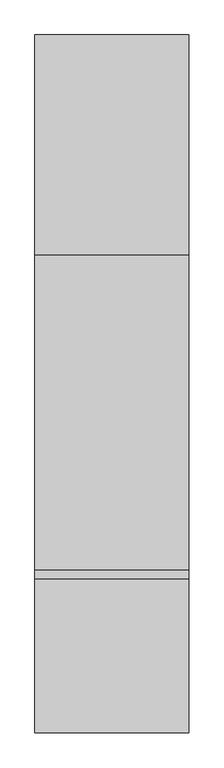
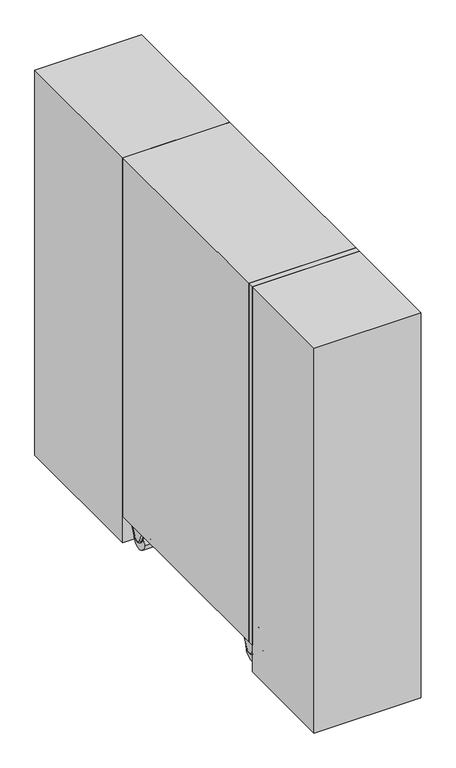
"""IFC4 building model written with IfcOpenShell, lengths in millimetres: proxy geometry, Трехфазный ИБП_ЛЕГИОН_СайберЭлектро : ЛЕГИОН-3Ф-20К-Ш."""

from ifc_helpers import new_model, si_unit, point, frame, origin, origin_with_axes, place, context, project, spatial, polyline, circle_curve, ellipse_curve, trimmed, outline, extrude, source, transform, mapped, element, save
from ifc_brep_helpers import plane_surface, cylinder_surface, revolved_surface, advanced_brep


def electrical_equipment_600f0f6b(model_context):
    return source(origin(), model_context, "Body", "SolidModel", [
        advanced_brep(
        [(157.5584286, -22.026834, 73.0926887), (157.5584286, -31.2318826, 87.0), (157.5584286, -68.7681174, 87.0), (157.5584286, -77.973166, 73.0926887), (157.5584286, -63.8075728, 39.7206426), (157.5584286, -36.1924272, 39.7206426), (112.4415714, -31.2318826, 87.0), (112.4415714, -22.026834, 73.0926887), (112.4415714, -36.1924272, 39.7206426), (112.4415714, -63.8075728, 39.7206426), (112.4415714, -77.973166, 73.0926887), (112.4415714, -68.7681174, 87.0), (152.5584286, -31.2318826, 92.0), (117.4415641, -31.2318826, 92.0), (117.4415714, -68.7681174, 92.0), (152.5584286, -68.7681174, 92.0), (117.4415714, -82.5756902, 71.1390331), (152.5584286, -82.5756902, 71.1390331), (150.0, -73.1912444, 49.0306642), (150.0, -68.4100971, 37.7669869), (152.5584286, -68.4100971, 37.7669869), (117.4415714, -68.4100971, 37.7669869), (120.0, -68.4100971, 37.7669869), (120.0, -73.1912444, 49.0306642), (150.0, -31.5899029, 37.7669869), (152.5584286, -31.5899029, 37.7669869), (120.0, -31.5899029, 37.7669869), (117.4415714, -31.5899029, 37.7669869), (150.0, -26.8087556, 49.0306642), (120.0, -26.8087556, 49.0306642), (117.4415714, -17.4243098, 71.1390331), (152.5584286, -17.4243098, 71.1390331), (150.0, -80.0, 30.0), (150.0, -20.0, 30.0), (120.0, -20.0, 30.0), (120.0, -80.0, 30.0)],
        [
            (0, 1, circle_curve(frame((157.5584286, -31.2318826, 77.0), z_axis=(1.0, 0.0, 0.0), x_axis=(0.0, 0.0, 1.0)), 10.0)),
            (1, 2),
            (2, 3, circle_curve(frame((157.5584286, -68.7681174, 77.0), z_axis=(1.0, 0.0, 0.0), x_axis=(0.0, -0.9205048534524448, -0.3907311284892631)), 10.0)),
            (3, 4),
            (4, 5, circle_curve(frame((157.5584286, -50.0, 45.5816095), z_axis=(1.0, 0.0, 0.0), x_axis=(0.0, 0.9205048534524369, -0.3907311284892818)), 15.0)),
            (5, 0),
            (6, 7, circle_curve(frame((112.4415714, -31.2318826, 77.0), z_axis=(-1.0, 0.0, 0.0), x_axis=(0.0, 0.0, 1.0)), 10.0)),
            (7, 8),
            (8, 9, circle_curve(frame((112.4415714, -50.0, 45.5816095), z_axis=(-1.0, 0.0, 0.0), x_axis=(0.0, 0.9205048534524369, -0.3907311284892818)), 15.0)),
            (9, 10),
            (10, 11, circle_curve(frame((112.4415714, -68.7681174, 77.0), z_axis=(-1.0, 0.0, 0.0), x_axis=(0.0, -0.9205048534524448, -0.3907311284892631)), 10.0)),
            (11, 6),
            (12, 13),
            (13, 14),
            (14, 15),
            (15, 12),
            (14, 16, circle_curve(frame((117.4415714, -68.7681174, 77.0), z_axis=(1.0, 0.0, 0.0), x_axis=(0.0, 1.0, 0.0)), 15.0)),
            (16, 17),
            (17, 15, circle_curve(frame((152.5584286, -68.7681174, 77.0), z_axis=(-1.0, 0.0, 0.0), x_axis=(0.0, 1.0, 0.0)), 15.0)),
            (18, 19),
            (19, 20),
            (20, 17),
            (16, 21),
            (21, 22),
            (22, 23),
            (23, 18),
            (19, 24, circle_curve(frame((150.0, -50.0, 45.5816095), z_axis=(1.0, 0.0, 0.0), x_axis=(0.0, 1.0, 0.0)), 20.0)),
            (24, 25),
            (25, 20, circle_curve(frame((152.5584286, -50.0, 45.5816095), z_axis=(-1.0, 0.0, 0.0), x_axis=(0.0, 1.0, 0.0)), 20.0)),
            (26, 22, circle_curve(frame((120.0, -50.0, 45.5816095), z_axis=(-1.0, 0.0, 0.0), x_axis=(0.0, 1.0, 0.0)), 20.0)),
            (21, 27, circle_curve(frame((117.4415714, -50.0, 45.5816095), z_axis=(1.0, 0.0, 0.0), x_axis=(0.0, 1.0, 0.0)), 20.0)),
            (27, 26),
            (24, 28),
            (28, 29),
            (29, 26),
            (27, 30),
            (30, 31),
            (31, 25),
            (12, 31, circle_curve(frame((152.5584286, -31.2318826, 77.0), z_axis=(-1.0, 0.0, 0.0), x_axis=(0.0, 1.0, 0.0)), 15.0)),
            (30, 13, circle_curve(frame((117.4415714, -31.2318826, 77.0), z_axis=(1.0, 0.0, 0.0), x_axis=(0.0, 1.0, 0.0)), 15.0)),
            (32, 33, circle_curve(frame((150.0, -50.0, 30.0), z_axis=(1.0, 0.0, 0.0), x_axis=(0.0, -1.0, 0.0)), 30.0)),
            (33, 28, circle_curve(frame((150.0, -50.0, 30.0), z_axis=(1.0, 0.0, 0.0), x_axis=(0.0, -1.0, 0.0)), 30.0)),
            (18, 32, circle_curve(frame((150.0, -50.0, 30.0), z_axis=(1.0, 0.0, 0.0), x_axis=(0.0, -1.0, 0.0)), 30.0)),
            (34, 35, circle_curve(frame((120.0, -50.0, 30.0), z_axis=(-1.0, 0.0, 0.0), x_axis=(0.0, -1.0, 0.0)), 30.0)),
            (35, 23, circle_curve(frame((120.0, -50.0, 30.0), z_axis=(-1.0, 0.0, 0.0), x_axis=(0.0, -1.0, 0.0)), 30.0)),
            (29, 34, circle_curve(frame((120.0, -50.0, 30.0), z_axis=(-1.0, 0.0, 0.0), x_axis=(0.0, -1.0, 0.0)), 30.0)),
            (33, 34),
            (35, 32),
            (30, 7, circle_curve(frame((117.4415714, -22.026834, 73.0926887), z_axis=(0.0, 0.3907311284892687, 0.9205048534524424), x_axis=(-1.0, 0.0, 0.0)), 5.0)),
            (6, 13, circle_curve(frame((117.4415714, -31.2318826, 87.0), z_axis=(0.0, 1.0, 0.0), x_axis=(-1.0, 0.0, 0.0)), 5.0)),
            (0, 31, circle_curve(frame((152.5584286, -22.026834, 73.0926887), z_axis=(0.0, 0.3907311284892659, 0.9205048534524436), x_axis=(-1.0, 0.0, 0.0)), 5.0)),
            (12, 1, circle_curve(frame((152.5584286, -31.2318826, 87.0), z_axis=(0.0, 1.0, 0.0), x_axis=(-1.0, 0.0, 0.0)), 5.0)),
            (27, 8, circle_curve(frame((117.4415714, -36.1924272, 39.7206426), z_axis=(0.0, 0.3907311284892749, 0.9205048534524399), x_axis=(-1.0, 0.0, 0.0)), 5.0)),
            (5, 25, circle_curve(frame((152.5584286, -36.1924272, 39.7206426), z_axis=(0.0, 0.3907311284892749, 0.9205048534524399), x_axis=(-1.0, 0.0, 0.0)), 5.0)),
            (21, 9, circle_curve(frame((117.4415714, -63.8075728, 39.7206426), z_axis=(0.0, 0.39073112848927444, -0.9205048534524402), x_axis=(-1.0, 0.0, 0.0)), 5.0)),
            (4, 20, circle_curve(frame((152.5584286, -63.8075728, 39.7206426), z_axis=(0.0, 0.39073112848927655, -0.9205048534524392), x_axis=(-1.0, 0.0, 0.0)), 5.0)),
            (16, 10, circle_curve(frame((117.4415714, -77.973166, 73.0926887), z_axis=(0.0, 0.39073112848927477, -0.92050485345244), x_axis=(-1.0, 0.0, 0.0)), 5.0)),
            (3, 17, circle_curve(frame((152.5584286, -77.973166, 73.0926887), z_axis=(0.0, 0.39073112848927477, -0.92050485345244), x_axis=(-1.0, 0.0, 0.0)), 5.0)),
            (14, 11, circle_curve(frame((117.4415714, -68.7681174, 87.0), z_axis=(0.0, -1.0, 0.0), x_axis=(-1.0, 0.0, 0.0)), 5.0)),
            (2, 15, circle_curve(frame((152.5584286, -68.7681174, 87.0), z_axis=(0.0, -1.0, 0.0), x_axis=(-1.0, 0.0, 0.0)), 5.0)),
        ],
        [
            plane_surface(frame((157.5584286, -50.0, 92.0), z_axis=(1.0, 0.0, 0.0), x_axis=(0.0, -1.0, 0.0))),
            plane_surface(frame((112.4415714, -50.0, 92.0), z_axis=(-1.0, 0.0, 0.0), x_axis=(0.0, 1.0, 0.0))),
            plane_surface(frame((157.5584286, -31.2318826, 92.0), z_axis=(0.0, 0.0, 1.0), x_axis=(-1.0, 0.0, 0.0))),
            cylinder_surface(frame((112.4415714, -68.7681174, 77.0), z_axis=(1.0, 0.0, 0.0), x_axis=(0.0, 1.0, 0.0)), 15.0),
            plane_surface(frame((157.5584286, -82.5756902, 71.1390331), z_axis=(0.0, -0.9205048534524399, -0.39073112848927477), x_axis=(-1.0, 0.0, 0.0))),
            cylinder_surface(frame((112.4415714, -50.0, 45.5816095), z_axis=(1.0, 0.0, 0.0), x_axis=(0.0, 1.0, 0.0)), 20.0),
            plane_surface(frame((157.5584286, -31.5899029, 37.7669869), z_axis=(0.0, 0.9205048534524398, -0.3907311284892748), x_axis=(-1.0, 0.0, 0.0))),
            cylinder_surface(frame((112.4415714, -31.2318826, 77.0), z_axis=(1.0, 0.0, 0.0), x_axis=(0.0, 1.0, 0.0)), 15.0),
            plane_surface(frame((150.0, -80.0, 30.0), z_axis=(1.0, 0.0, 0.0), x_axis=(0.0, 0.0, -1.0))),
            plane_surface(frame((120.0, -80.0, 30.0), z_axis=(-1.0, 0.0, 0.0), x_axis=(0.0, 0.0, 1.0))),
            cylinder_surface(frame((120.0, -50.0, 30.0), z_axis=(1.0, 0.0, 0.0), x_axis=(0.0, -1.0, 0.0)), 30.0),
            revolved_surface(trimmed(ellipse_curve(frame((117.4415714, -31.2318826, 87.0), z_axis=(0.0, -1.0, 0.0), x_axis=(-1.0, 0.0, 0.0)), 5.0, 5.0), [point((117.4415714, -31.2318826, 92.0))], [point((112.4415714, -31.2318826, 87.0))], True, "CARTESIAN"), (112.4415714, -31.2318826, 77.0), (-1.0, 0.0, 0.0)),
            revolved_surface(trimmed(ellipse_curve(frame((152.5584286, -31.2318826, 87.0), z_axis=(0.0, -1.0, 0.0), x_axis=(-1.0, 0.0, 0.0)), 5.0, 5.0), [point((157.5584286, -31.2318826, 87.0))], [point((152.5584286, -31.2318826, 92.0))], True, "CARTESIAN"), (112.4415714, -31.2318826, 77.0), (-1.0, 0.0, 0.0)),
            cylinder_surface(frame((117.4415714, -22.026834, 73.0926887), z_axis=(0.0, -0.3907311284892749, -0.9205048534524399), x_axis=(-1.0, 0.0, 0.0)), 5.0),
            cylinder_surface(frame((152.5584286, -22.026834, 73.0926887), z_axis=(0.0, -0.3907311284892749, -0.9205048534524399), x_axis=(-1.0, 0.0, 0.0)), 5.0),
            revolved_surface(trimmed(ellipse_curve(frame((117.4415714, -36.1924272, 39.7206426), z_axis=(0.0, 0.39073112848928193, 0.9205048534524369), x_axis=(-1.0, 0.0, 0.0)), 5.0, 5.0), [point((117.4415714, -31.5899029, 37.7669869))], [point((112.4415714, -36.1924272, 39.7206426))], True, "CARTESIAN"), (112.4415714, -50.0, 45.5816095), (-1.0, 0.0, 0.0)),
            revolved_surface(trimmed(ellipse_curve(frame((152.5584286, -36.1924272, 39.7206426), z_axis=(0.0, 0.39073112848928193, 0.9205048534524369), x_axis=(-1.0, 0.0, 0.0)), 5.0, 5.0), [point((157.5584286, -36.1924272, 39.7206426))], [point((152.5584286, -31.5899029, 37.7669869))], True, "CARTESIAN"), (112.4415714, -50.0, 45.5816095), (-1.0, 0.0, 0.0)),
            cylinder_surface(frame((117.4415714, -63.8075728, 39.7206426), z_axis=(0.0, -0.39073112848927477, 0.92050485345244), x_axis=(-1.0, 0.0, 0.0)), 5.0),
            cylinder_surface(frame((152.5584286, -63.8075728, 39.7206426), z_axis=(0.0, -0.39073112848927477, 0.92050485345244), x_axis=(-1.0, 0.0, 0.0)), 5.0),
            revolved_surface(trimmed(ellipse_curve(frame((117.4415714, -77.973166, 73.0926887), z_axis=(0.0, 0.39073112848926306, -0.9205048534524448), x_axis=(-1.0, 0.0, 0.0)), 5.0, 5.0), [point((117.4415714, -82.5756902, 71.1390331))], [point((112.4415714, -77.973166, 73.0926887))], True, "CARTESIAN"), (112.4415714, -68.7681174, 77.0), (-1.0, 0.0, 0.0)),
            revolved_surface(trimmed(ellipse_curve(frame((152.5584286, -77.973166, 73.0926887), z_axis=(0.0, 0.39073112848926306, -0.9205048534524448), x_axis=(-1.0, 0.0, 0.0)), 5.0, 5.0), [point((157.5584286, -77.973166, 73.0926887))], [point((152.5584286, -82.5756902, 71.1390331))], True, "CARTESIAN"), (112.4415714, -68.7681174, 77.0), (-1.0, 0.0, 0.0)),
            cylinder_surface(frame((117.4415714, -68.7681174, 87.0), z_axis=(0.0, 1.0, 0.0), x_axis=(-1.0, 0.0, 0.0)), 5.0),
            cylinder_surface(frame((152.5584286, -68.7681174, 87.0), z_axis=(0.0, 1.0, 0.0), x_axis=(-1.0, 0.0, 0.0)), 5.0),
        ],
        [
            (0, [[1, 2, 3, 4, 5, 6]]),
            (1, [[7, 8, 9, 10, 11, 12]]),
            (2, [[13, 14, 15, 16]]),
            (3, [[-15, 17, 18, 19]]),
            (4, [[20, 21, 22, -18, 23, 24, 25, 26]]),
            (5, [[27, 28, 29, -21]]),
            (5, [[30, -24, 31, 32]]),
            (6, [[33, 34, 35, -32, 36, 37, 38, -28]]),
            (7, [[-13, 39, -37, 40]]),
            (8, [[41, 42, -33, -27, -20, 43]]),
            (9, [[44, 45, -25, -30, -35, 46]]),
            (10, [[47, -46, -34, -42]]),
            (10, [[48, -43, -26, -45]]),
            (10, [[-41, -48, -44, -47]]),
            (11, [[49, -7, 50, -40]]),
            (12, [[51, -39, 52, -1]]),
            (13, [[-49, -36, 53, -8]]),
            (14, [[-51, -6, 54, -38]]),
            (15, [[-53, -31, 55, -9]]),
            (16, [[-54, -5, 56, -29]]),
            (17, [[-55, -23, 57, -10]]),
            (18, [[-56, -4, 58, -22]]),
            (19, [[-57, -17, 59, -11]]),
            (20, [[-58, -3, 60, -19]]),
            (21, [[-50, -12, -59, -14]]),
            (22, [[-52, -16, -60, -2]]),
        ],
    ),
        advanced_brep(
        [(-112.4415714, -22.026834, 73.0926887), (-112.4415714, -31.2318826, 87.0), (-112.4415714, -68.7681174, 87.0), (-112.4415714, -77.973166, 73.0926887), (-112.4415714, -63.8075728, 39.7206426), (-112.4415714, -36.1924272, 39.7206426), (-157.5584286, -31.2318826, 87.0), (-157.5584286, -22.026834, 73.0926887), (-157.5584286, -36.1924272, 39.7206426), (-157.5584286, -63.8075728, 39.7206426), (-157.5584286, -77.973166, 73.0926887), (-157.5584286, -68.7681174, 87.0), (-117.4415714, -31.2318826, 92.0), (-152.5584359, -31.2318826, 92.0), (-152.5584286, -68.7681174, 92.0), (-117.4415714, -68.7681174, 92.0), (-152.5584286, -82.5756902, 71.1390331), (-117.4415714, -82.5756902, 71.1390331), (-120.0, -73.1912444, 49.0306642), (-120.0, -68.4100971, 37.7669869), (-117.4415714, -68.4100971, 37.7669869), (-152.5584286, -68.4100971, 37.7669869), (-150.0, -68.4100971, 37.7669869), (-150.0, -73.1912444, 49.0306642), (-120.0, -31.5899029, 37.7669869), (-117.4415714, -31.5899029, 37.7669869), (-150.0, -31.5899029, 37.7669869), (-152.5584286, -31.5899029, 37.7669869), (-120.0, -26.8087556, 49.0306642), (-150.0, -26.8087556, 49.0306642), (-152.5584286, -17.4243098, 71.1390331), (-117.4415714, -17.4243098, 71.1390331), (-120.0, -80.0, 30.0), (-120.0, -20.0, 30.0), (-150.0, -20.0, 30.0), (-150.0, -80.0, 30.0)],
        [
            (0, 1, circle_curve(frame((-112.4415714, -31.2318826, 77.0), z_axis=(1.0, 0.0, 0.0), x_axis=(0.0, 0.0, 1.0)), 10.0)),
            (1, 2),
            (2, 3, circle_curve(frame((-112.4415714, -68.7681174, 77.0), z_axis=(1.0, 0.0, 0.0), x_axis=(0.0, -0.9205048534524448, -0.3907311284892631)), 10.0)),
            (3, 4),
            (4, 5, circle_curve(frame((-112.4415714, -50.0, 45.5816095), z_axis=(1.0, 0.0, 0.0), x_axis=(0.0, 0.9205048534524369, -0.3907311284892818)), 15.0)),
            (5, 0),
            (6, 7, circle_curve(frame((-157.5584286, -31.2318826, 77.0), z_axis=(-1.0, 0.0, 0.0), x_axis=(0.0, 0.0, 1.0)), 10.0)),
            (7, 8),
            (8, 9, circle_curve(frame((-157.5584286, -50.0, 45.5816095), z_axis=(-1.0, 0.0, 0.0), x_axis=(0.0, 0.9205048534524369, -0.3907311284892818)), 15.0)),
            (9, 10),
            (10, 11, circle_curve(frame((-157.5584286, -68.7681174, 77.0), z_axis=(-1.0, 0.0, 0.0), x_axis=(0.0, -0.9205048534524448, -0.3907311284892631)), 10.0)),
            (11, 6),
            (12, 13),
            (13, 14),
            (14, 15),
            (15, 12),
            (14, 16, circle_curve(frame((-152.5584286, -68.7681174, 77.0), z_axis=(1.0, 0.0, 0.0), x_axis=(0.0, 1.0, 0.0)), 15.0)),
            (16, 17),
            (17, 15, circle_curve(frame((-117.4415714, -68.7681174, 77.0), z_axis=(-1.0, 0.0, 0.0), x_axis=(0.0, 1.0, 0.0)), 15.0)),
            (18, 19),
            (19, 20),
            (20, 17),
            (16, 21),
            (21, 22),
            (22, 23),
            (23, 18),
            (19, 24, circle_curve(frame((-120.0, -50.0, 45.5816095), z_axis=(1.0, 0.0, 0.0), x_axis=(0.0, 1.0, 0.0)), 20.0)),
            (24, 25),
            (25, 20, circle_curve(frame((-117.4415714, -50.0, 45.5816095), z_axis=(-1.0, 0.0, 0.0), x_axis=(0.0, 1.0, 0.0)), 20.0)),
            (26, 22, circle_curve(frame((-150.0, -50.0, 45.5816095), z_axis=(-1.0, 0.0, 0.0), x_axis=(0.0, 1.0, 0.0)), 20.0)),
            (21, 27, circle_curve(frame((-152.5584286, -50.0, 45.5816095), z_axis=(1.0, 0.0, 0.0), x_axis=(0.0, 1.0, 0.0)), 20.0)),
            (27, 26),
            (24, 28),
            (28, 29),
            (29, 26),
            (27, 30),
            (30, 31),
            (31, 25),
            (12, 31, circle_curve(frame((-117.4415714, -31.2318826, 77.0), z_axis=(-1.0, 0.0, 0.0), x_axis=(0.0, 1.0, 0.0)), 15.0)),
            (30, 13, circle_curve(frame((-152.5584286, -31.2318826, 77.0), z_axis=(1.0, 0.0, 0.0), x_axis=(0.0, 1.0, 0.0)), 15.0)),
            (32, 33, circle_curve(frame((-120.0, -50.0, 30.0), z_axis=(1.0, 0.0, 0.0), x_axis=(0.0, -1.0, 0.0)), 30.0)),
            (33, 28, circle_curve(frame((-120.0, -50.0, 30.0), z_axis=(1.0, 0.0, 0.0), x_axis=(0.0, -1.0, 0.0)), 30.0)),
            (18, 32, circle_curve(frame((-120.0, -50.0, 30.0), z_axis=(1.0, 0.0, 0.0), x_axis=(0.0, -1.0, 0.0)), 30.0)),
            (34, 35, circle_curve(frame((-150.0, -50.0, 30.0), z_axis=(-1.0, 0.0, 0.0), x_axis=(0.0, -1.0, 0.0)), 30.0)),
            (35, 23, circle_curve(frame((-150.0, -50.0, 30.0), z_axis=(-1.0, 0.0, 0.0), x_axis=(0.0, -1.0, 0.0)), 30.0)),
            (29, 34, circle_curve(frame((-150.0, -50.0, 30.0), z_axis=(-1.0, 0.0, 0.0), x_axis=(0.0, -1.0, 0.0)), 30.0)),
            (33, 34),
            (35, 32),
            (30, 7, circle_curve(frame((-152.5584286, -22.026834, 73.0926887), z_axis=(0.0, 0.3907311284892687, 0.9205048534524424), x_axis=(-1.0, 0.0, 0.0)), 5.0)),
            (6, 13, circle_curve(frame((-152.5584286, -31.2318826, 87.0), z_axis=(0.0, 1.0, 0.0), x_axis=(-1.0, 0.0, 0.0)), 5.0)),
            (0, 31, circle_curve(frame((-117.4415714, -22.026834, 73.0926887), z_axis=(0.0, 0.3907311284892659, 0.9205048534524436), x_axis=(-1.0, 0.0, 0.0)), 5.0)),
            (12, 1, circle_curve(frame((-117.4415714, -31.2318826, 87.0), z_axis=(0.0, 1.0, 0.0), x_axis=(-1.0, 0.0, 0.0)), 5.0)),
            (27, 8, circle_curve(frame((-152.5584286, -36.1924272, 39.7206426), z_axis=(0.0, 0.3907311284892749, 0.9205048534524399), x_axis=(-1.0, 0.0, 0.0)), 5.0)),
            (5, 25, circle_curve(frame((-117.4415714, -36.1924272, 39.7206426), z_axis=(0.0, 0.3907311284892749, 0.9205048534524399), x_axis=(-1.0, 0.0, 0.0)), 5.0)),
            (21, 9, circle_curve(frame((-152.5584286, -63.8075728, 39.7206426), z_axis=(0.0, 0.39073112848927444, -0.9205048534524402), x_axis=(-1.0, 0.0, 0.0)), 5.0)),
            (4, 20, circle_curve(frame((-117.4415714, -63.8075728, 39.7206426), z_axis=(0.0, 0.39073112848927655, -0.9205048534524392), x_axis=(-1.0, 0.0, 0.0)), 5.0)),
            (16, 10, circle_curve(frame((-152.5584286, -77.973166, 73.0926887), z_axis=(0.0, 0.39073112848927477, -0.92050485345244), x_axis=(-1.0, 0.0, 0.0)), 5.0)),
            (3, 17, circle_curve(frame((-117.4415714, -77.973166, 73.0926887), z_axis=(0.0, 0.39073112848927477, -0.92050485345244), x_axis=(-1.0, 0.0, 0.0)), 5.0)),
            (14, 11, circle_curve(frame((-152.5584286, -68.7681174, 87.0), z_axis=(0.0, -1.0, 0.0), x_axis=(-1.0, 0.0, 0.0)), 5.0)),
            (2, 15, circle_curve(frame((-117.4415714, -68.7681174, 87.0), z_axis=(0.0, -1.0, 0.0), x_axis=(-1.0, 0.0, 0.0)), 5.0)),
        ],
        [
            plane_surface(frame((-112.4415714, -50.0, 92.0), z_axis=(1.0, 0.0, 0.0), x_axis=(0.0, -1.0, 0.0))),
            plane_surface(frame((-157.5584286, -50.0, 92.0), z_axis=(-1.0, 0.0, 0.0), x_axis=(0.0, 1.0, 0.0))),
            plane_surface(frame((-112.4415714, -31.2318826, 92.0), z_axis=(0.0, 0.0, 1.0), x_axis=(-1.0, 0.0, 0.0))),
            cylinder_surface(frame((-157.5584286, -68.7681174, 77.0), z_axis=(1.0, 0.0, 0.0), x_axis=(0.0, 1.0, 0.0)), 15.0),
            plane_surface(frame((-112.4415714, -82.5756902, 71.1390331), z_axis=(0.0, -0.9205048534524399, -0.39073112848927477), x_axis=(-1.0, 0.0, 0.0))),
            cylinder_surface(frame((-157.5584286, -50.0, 45.5816095), z_axis=(1.0, 0.0, 0.0), x_axis=(0.0, 1.0, 0.0)), 20.0),
            plane_surface(frame((-112.4415714, -31.5899029, 37.7669869), z_axis=(0.0, 0.9205048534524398, -0.3907311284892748), x_axis=(-1.0, 0.0, 0.0))),
            cylinder_surface(frame((-157.5584286, -31.2318826, 77.0), z_axis=(1.0, 0.0, 0.0), x_axis=(0.0, 1.0, 0.0)), 15.0),
            plane_surface(frame((-120.0, -80.0, 30.0), z_axis=(1.0, 0.0, 0.0), x_axis=(0.0, 0.0, -1.0))),
            plane_surface(frame((-150.0, -80.0, 30.0), z_axis=(-1.0, 0.0, 0.0), x_axis=(0.0, 0.0, 1.0))),
            cylinder_surface(frame((-150.0, -50.0, 30.0), z_axis=(1.0, 0.0, 0.0), x_axis=(0.0, -1.0, 0.0)), 30.0),
            revolved_surface(trimmed(ellipse_curve(frame((-152.5584286, -31.2318826, 87.0), z_axis=(0.0, -1.0, 0.0), x_axis=(-1.0, 0.0, 0.0)), 5.0, 5.0), [point((-152.5584286, -31.2318826, 92.0))], [point((-157.5584286, -31.2318826, 87.0))], True, "CARTESIAN"), (-157.5584286, -31.2318826, 77.0), (-1.0, 0.0, 0.0)),
            revolved_surface(trimmed(ellipse_curve(frame((-117.4415714, -31.2318826, 87.0), z_axis=(0.0, -1.0, 0.0), x_axis=(-1.0, 0.0, 0.0)), 5.0, 5.0), [point((-112.4415714, -31.2318826, 87.0))], [point((-117.4415714, -31.2318826, 92.0))], True, "CARTESIAN"), (-157.5584286, -31.2318826, 77.0), (-1.0, 0.0, 0.0)),
            cylinder_surface(frame((-152.5584286, -22.026834, 73.0926887), z_axis=(0.0, -0.3907311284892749, -0.9205048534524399), x_axis=(-1.0, 0.0, 0.0)), 5.0),
            cylinder_surface(frame((-117.4415714, -22.026834, 73.0926887), z_axis=(0.0, -0.3907311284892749, -0.9205048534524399), x_axis=(-1.0, 0.0, 0.0)), 5.0),
            revolved_surface(trimmed(ellipse_curve(frame((-152.5584286, -36.1924272, 39.7206426), z_axis=(0.0, 0.39073112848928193, 0.9205048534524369), x_axis=(-1.0, 0.0, 0.0)), 5.0, 5.0), [point((-152.5584286, -31.5899029, 37.7669869))], [point((-157.5584286, -36.1924272, 39.7206426))], True, "CARTESIAN"), (-157.5584286, -50.0, 45.5816095), (-1.0, 0.0, 0.0)),
            revolved_surface(trimmed(ellipse_curve(frame((-117.4415714, -36.1924272, 39.7206426), z_axis=(0.0, 0.39073112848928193, 0.9205048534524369), x_axis=(-1.0, 0.0, 0.0)), 5.0, 5.0), [point((-112.4415714, -36.1924272, 39.7206426))], [point((-117.4415714, -31.5899029, 37.7669869))], True, "CARTESIAN"), (-157.5584286, -50.0, 45.5816095), (-1.0, 0.0, 0.0)),
            cylinder_surface(frame((-152.5584286, -63.8075728, 39.7206426), z_axis=(0.0, -0.39073112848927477, 0.92050485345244), x_axis=(-1.0, 0.0, 0.0)), 5.0),
            cylinder_surface(frame((-117.4415714, -63.8075728, 39.7206426), z_axis=(0.0, -0.39073112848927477, 0.92050485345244), x_axis=(-1.0, 0.0, 0.0)), 5.0),
            revolved_surface(trimmed(ellipse_curve(frame((-152.5584286, -77.973166, 73.0926887), z_axis=(0.0, 0.39073112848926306, -0.9205048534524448), x_axis=(-1.0, 0.0, 0.0)), 5.0, 5.0), [point((-152.5584286, -82.5756902, 71.1390331))], [point((-157.5584286, -77.973166, 73.0926887))], True, "CARTESIAN"), (-157.5584286, -68.7681174, 77.0), (-1.0, 0.0, 0.0)),
            revolved_surface(trimmed(ellipse_curve(frame((-117.4415714, -77.973166, 73.0926887), z_axis=(0.0, 0.39073112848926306, -0.9205048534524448), x_axis=(-1.0, 0.0, 0.0)), 5.0, 5.0), [point((-112.4415714, -77.973166, 73.0926887))], [point((-117.4415714, -82.5756902, 71.1390331))], True, "CARTESIAN"), (-157.5584286, -68.7681174, 77.0), (-1.0, 0.0, 0.0)),
            cylinder_surface(frame((-152.5584286, -68.7681174, 87.0), z_axis=(0.0, 1.0, 0.0), x_axis=(-1.0, 0.0, 0.0)), 5.0),
            cylinder_surface(frame((-117.4415714, -68.7681174, 87.0), z_axis=(0.0, 1.0, 0.0), x_axis=(-1.0, 0.0, 0.0)), 5.0),
        ],
        [
            (0, [[1, 2, 3, 4, 5, 6]]),
            (1, [[7, 8, 9, 10, 11, 12]]),
            (2, [[13, 14, 15, 16]]),
            (3, [[-15, 17, 18, 19]]),
            (4, [[20, 21, 22, -18, 23, 24, 25, 26]]),
            (5, [[27, 28, 29, -21]]),
            (5, [[30, -24, 31, 32]]),
            (6, [[33, 34, 35, -32, 36, 37, 38, -28]]),
            (7, [[-13, 39, -37, 40]]),
            (8, [[41, 42, -33, -27, -20, 43]]),
            (9, [[44, 45, -25, -30, -35, 46]]),
            (10, [[47, -46, -34, -42]]),
            (10, [[48, -43, -26, -45]]),
            (10, [[-41, -48, -44, -47]]),
            (11, [[49, -7, 50, -40]]),
            (12, [[51, -39, 52, -1]]),
            (13, [[-49, -36, 53, -8]]),
            (14, [[-51, -6, 54, -38]]),
            (15, [[-53, -31, 55, -9]]),
            (16, [[-54, -5, 56, -29]]),
            (17, [[-55, -23, 57, -10]]),
            (18, [[-56, -4, 58, -22]]),
            (19, [[-57, -17, 59, -11]]),
            (20, [[-58, -3, 60, -19]]),
            (21, [[-50, -12, -59, -14]]),
            (22, [[-52, -16, -60, -2]]),
        ],
    ),
        advanced_brep(
        [(157.5584286, -660.026834, 73.0926887), (157.5584286, -669.2318826, 87.0), (157.5584286, -706.7681174, 87.0), (157.5584286, -715.973166, 73.0926887), (157.5584286, -701.8075728, 39.7206426), (157.5584286, -674.1924272, 39.7206426), (112.4415714, -669.2318826, 87.0), (112.4415714, -660.026834, 73.0926887), (112.4415714, -674.1924272, 39.7206426), (112.4415714, -701.8075728, 39.7206426), (112.4415714, -715.973166, 73.0926887), (112.4415714, -706.7681174, 87.0), (152.5584286, -669.2318826, 92.0), (117.4415641, -669.2318826, 92.0), (117.4415714, -706.7681174, 92.0), (152.5584286, -706.7681174, 92.0), (117.4415714, -720.5756902, 71.1390331), (152.5584286, -720.5756902, 71.1390331), (150.0, -711.1912444, 49.0306642), (150.0, -706.4100971, 37.7669869), (152.5584286, -706.4100971, 37.7669869), (117.4415714, -706.4100971, 37.7669869), (120.0, -706.4100971, 37.7669869), (120.0, -711.1912444, 49.0306642), (150.0, -669.5899029, 37.7669869), (152.5584286, -669.5899029, 37.7669869), (120.0, -669.5899029, 37.7669869), (117.4415714, -669.5899029, 37.7669869), (150.0, -664.8087556, 49.0306642), (120.0, -664.8087556, 49.0306642), (117.4415714, -655.4243098, 71.1390331), (152.5584286, -655.4243098, 71.1390331), (150.0, -718.0, 30.0), (150.0, -658.0, 30.0), (120.0, -658.0, 30.0), (120.0, -718.0, 30.0)],
        [
            (0, 1, circle_curve(frame((157.5584286, -669.2318826, 77.0), z_axis=(1.0, 0.0, 0.0), x_axis=(0.0, 0.0, 1.0)), 10.0)),
            (1, 2),
            (2, 3, circle_curve(frame((157.5584286, -706.7681174, 77.0), z_axis=(1.0, 0.0, 0.0), x_axis=(0.0, -0.9205048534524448, -0.3907311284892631)), 10.0)),
            (3, 4),
            (4, 5, circle_curve(frame((157.5584286, -688.0, 45.5816095), z_axis=(1.0, 0.0, 0.0), x_axis=(0.0, 0.9205048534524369, -0.3907311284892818)), 15.0)),
            (5, 0),
            (6, 7, circle_curve(frame((112.4415714, -669.2318826, 77.0), z_axis=(-1.0, 0.0, 0.0), x_axis=(0.0, 0.0, 1.0)), 10.0)),
            (7, 8),
            (8, 9, circle_curve(frame((112.4415714, -688.0, 45.5816095), z_axis=(-1.0, 0.0, 0.0), x_axis=(0.0, 0.9205048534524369, -0.3907311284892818)), 15.0)),
            (9, 10),
            (10, 11, circle_curve(frame((112.4415714, -706.7681174, 77.0), z_axis=(-1.0, 0.0, 0.0), x_axis=(0.0, -0.9205048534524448, -0.3907311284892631)), 10.0)),
            (11, 6),
            (12, 13),
            (13, 14),
            (14, 15),
            (15, 12),
            (14, 16, circle_curve(frame((117.4415714, -706.7681174, 77.0), z_axis=(1.0, 0.0, 0.0), x_axis=(0.0, 1.0, 0.0)), 15.0)),
            (16, 17),
            (17, 15, circle_curve(frame((152.5584286, -706.7681174, 77.0), z_axis=(-1.0, 0.0, 0.0), x_axis=(0.0, 1.0, 0.0)), 15.0)),
            (18, 19),
            (19, 20),
            (20, 17),
            (16, 21),
            (21, 22),
            (22, 23),
            (23, 18),
            (19, 24, circle_curve(frame((150.0, -688.0, 45.5816095), z_axis=(1.0, 0.0, 0.0), x_axis=(0.0, 1.0, 0.0)), 20.0)),
            (24, 25),
            (25, 20, circle_curve(frame((152.5584286, -688.0, 45.5816095), z_axis=(-1.0, 0.0, 0.0), x_axis=(0.0, 1.0, 0.0)), 20.0)),
            (26, 22, circle_curve(frame((120.0, -688.0, 45.5816095), z_axis=(-1.0, 0.0, 0.0), x_axis=(0.0, 1.0, 0.0)), 20.0)),
            (21, 27, circle_curve(frame((117.4415714, -688.0, 45.5816095), z_axis=(1.0, 0.0, 0.0), x_axis=(0.0, 1.0, 0.0)), 20.0)),
            (27, 26),
            (24, 28),
            (28, 29),
            (29, 26),
            (27, 30),
            (30, 31),
            (31, 25),
            (12, 31, circle_curve(frame((152.5584286, -669.2318826, 77.0), z_axis=(-1.0, 0.0, 0.0), x_axis=(0.0, 1.0, 0.0)), 15.0)),
            (30, 13, circle_curve(frame((117.4415714, -669.2318826, 77.0), z_axis=(1.0, 0.0, 0.0), x_axis=(0.0, 1.0, 0.0)), 15.0)),
            (32, 33, circle_curve(frame((150.0, -688.0, 30.0), z_axis=(1.0, 0.0, 0.0), x_axis=(0.0, -1.0, 0.0)), 30.0)),
            (33, 28, circle_curve(frame((150.0, -688.0, 30.0), z_axis=(1.0, 0.0, 0.0), x_axis=(0.0, -1.0, 0.0)), 30.0)),
            (18, 32, circle_curve(frame((150.0, -688.0, 30.0), z_axis=(1.0, 0.0, 0.0), x_axis=(0.0, -1.0, 0.0)), 30.0)),
            (34, 35, circle_curve(frame((120.0, -688.0, 30.0), z_axis=(-1.0, 0.0, 0.0), x_axis=(0.0, -1.0, 0.0)), 30.0)),
            (35, 23, circle_curve(frame((120.0, -688.0, 30.0), z_axis=(-1.0, 0.0, 0.0), x_axis=(0.0, -1.0, 0.0)), 30.0)),
            (29, 34, circle_curve(frame((120.0, -688.0, 30.0), z_axis=(-1.0, 0.0, 0.0), x_axis=(0.0, -1.0, 0.0)), 30.0)),
            (33, 34),
            (35, 32),
            (30, 7, circle_curve(frame((117.4415714, -660.026834, 73.0926887), z_axis=(0.0, 0.3907311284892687, 0.9205048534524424), x_axis=(-1.0, 0.0, 0.0)), 5.0)),
            (6, 13, circle_curve(frame((117.4415714, -669.2318826, 87.0), z_axis=(0.0, 1.0, 0.0), x_axis=(-1.0, 0.0, 0.0)), 5.0)),
            (0, 31, circle_curve(frame((152.5584286, -660.026834, 73.0926887), z_axis=(0.0, 0.3907311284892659, 0.9205048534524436), x_axis=(-1.0, 0.0, 0.0)), 5.0)),
            (12, 1, circle_curve(frame((152.5584286, -669.2318826, 87.0), z_axis=(0.0, 1.0, 0.0), x_axis=(-1.0, 0.0, 0.0)), 5.0)),
            (27, 8, circle_curve(frame((117.4415714, -674.1924272, 39.7206426), z_axis=(0.0, 0.3907311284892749, 0.9205048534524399), x_axis=(-1.0, 0.0, 0.0)), 5.0)),
            (5, 25, circle_curve(frame((152.5584286, -674.1924272, 39.7206426), z_axis=(0.0, 0.3907311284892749, 0.9205048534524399), x_axis=(-1.0, 0.0, 0.0)), 5.0)),
            (21, 9, circle_curve(frame((117.4415714, -701.8075728, 39.7206426), z_axis=(0.0, 0.39073112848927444, -0.9205048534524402), x_axis=(-1.0, 0.0, 0.0)), 5.0)),
            (4, 20, circle_curve(frame((152.5584286, -701.8075728, 39.7206426), z_axis=(0.0, 0.39073112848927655, -0.9205048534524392), x_axis=(-1.0, 0.0, 0.0)), 5.0)),
            (16, 10, circle_curve(frame((117.4415714, -715.973166, 73.0926887), z_axis=(0.0, 0.39073112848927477, -0.92050485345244), x_axis=(-1.0, 0.0, 0.0)), 5.0)),
            (3, 17, circle_curve(frame((152.5584286, -715.973166, 73.0926887), z_axis=(0.0, 0.39073112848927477, -0.92050485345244), x_axis=(-1.0, 0.0, 0.0)), 5.0)),
            (14, 11, circle_curve(frame((117.4415714, -706.7681174, 87.0), z_axis=(0.0, -1.0, 0.0), x_axis=(-1.0, 0.0, 0.0)), 5.0)),
            (2, 15, circle_curve(frame((152.5584286, -706.7681174, 87.0), z_axis=(0.0, -1.0, 0.0), x_axis=(-1.0, 0.0, 0.0)), 5.0)),
        ],
        [
            plane_surface(frame((157.5584286, -688.0, 92.0), z_axis=(1.0, 0.0, 0.0), x_axis=(0.0, -1.0, 0.0))),
            plane_surface(frame((112.4415714, -688.0, 92.0), z_axis=(-1.0, 0.0, 0.0), x_axis=(0.0, 1.0, 0.0))),
            plane_surface(frame((157.5584286, -669.2318826, 92.0), z_axis=(0.0, 0.0, 1.0), x_axis=(-1.0, 0.0, 0.0))),
            cylinder_surface(frame((112.4415714, -706.7681174, 77.0), z_axis=(1.0, 0.0, 0.0), x_axis=(0.0, 1.0, 0.0)), 15.0),
            plane_surface(frame((157.5584286, -720.5756902, 71.1390331), z_axis=(0.0, -0.9205048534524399, -0.39073112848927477), x_axis=(-1.0, 0.0, 0.0))),
            cylinder_surface(frame((112.4415714, -688.0, 45.5816095), z_axis=(1.0, 0.0, 0.0), x_axis=(0.0, 1.0, 0.0)), 20.0),
            plane_surface(frame((157.5584286, -669.5899029, 37.7669869), z_axis=(0.0, 0.9205048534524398, -0.3907311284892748), x_axis=(-1.0, 0.0, 0.0))),
            cylinder_surface(frame((112.4415714, -669.2318826, 77.0), z_axis=(1.0, 0.0, 0.0), x_axis=(0.0, 1.0, 0.0)), 15.0),
            plane_surface(frame((150.0, -718.0, 30.0), z_axis=(1.0, 0.0, 0.0), x_axis=(0.0, 0.0, -1.0))),
            plane_surface(frame((120.0, -718.0, 30.0), z_axis=(-1.0, 0.0, 0.0), x_axis=(0.0, 0.0, 1.0))),
            cylinder_surface(frame((120.0, -688.0, 30.0), z_axis=(1.0, 0.0, 0.0), x_axis=(0.0, -1.0, 0.0)), 30.0),
            revolved_surface(trimmed(ellipse_curve(frame((117.4415714, -669.2318826, 87.0), z_axis=(0.0, -1.0, 0.0), x_axis=(-1.0, 0.0, 0.0)), 5.0, 5.0), [point((117.4415714, -669.2318826, 92.0))], [point((112.4415714, -669.2318826, 87.0))], True, "CARTESIAN"), (112.4415714, -669.2318826, 77.0), (-1.0, 0.0, 0.0)),
            revolved_surface(trimmed(ellipse_curve(frame((152.5584286, -669.2318826, 87.0), z_axis=(0.0, -1.0, 0.0), x_axis=(-1.0, 0.0, 0.0)), 5.0, 5.0), [point((157.5584286, -669.2318826, 87.0))], [point((152.5584286, -669.2318826, 92.0))], True, "CARTESIAN"), (112.4415714, -669.2318826, 77.0), (-1.0, 0.0, 0.0)),
            cylinder_surface(frame((117.4415714, -660.026834, 73.0926887), z_axis=(0.0, -0.3907311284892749, -0.9205048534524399), x_axis=(-1.0, 0.0, 0.0)), 5.0),
            cylinder_surface(frame((152.5584286, -660.026834, 73.0926887), z_axis=(0.0, -0.3907311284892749, -0.9205048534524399), x_axis=(-1.0, 0.0, 0.0)), 5.0),
            revolved_surface(trimmed(ellipse_curve(frame((117.4415714, -674.1924272, 39.7206426), z_axis=(0.0, 0.39073112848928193, 0.9205048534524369), x_axis=(-1.0, 0.0, 0.0)), 5.0, 5.0), [point((117.4415714, -669.5899029, 37.7669869))], [point((112.4415714, -674.1924272, 39.7206426))], True, "CARTESIAN"), (112.4415714, -688.0, 45.5816095), (-1.0, 0.0, 0.0)),
            revolved_surface(trimmed(ellipse_curve(frame((152.5584286, -674.1924272, 39.7206426), z_axis=(0.0, 0.39073112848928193, 0.9205048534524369), x_axis=(-1.0, 0.0, 0.0)), 5.0, 5.0), [point((157.5584286, -674.1924272, 39.7206426))], [point((152.5584286, -669.5899029, 37.7669869))], True, "CARTESIAN"), (112.4415714, -688.0, 45.5816095), (-1.0, 0.0, 0.0)),
            cylinder_surface(frame((117.4415714, -701.8075728, 39.7206426), z_axis=(0.0, -0.39073112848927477, 0.92050485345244), x_axis=(-1.0, 0.0, 0.0)), 5.0),
            cylinder_surface(frame((152.5584286, -701.8075728, 39.7206426), z_axis=(0.0, -0.39073112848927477, 0.92050485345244), x_axis=(-1.0, 0.0, 0.0)), 5.0),
            revolved_surface(trimmed(ellipse_curve(frame((117.4415714, -715.973166, 73.0926887), z_axis=(0.0, 0.39073112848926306, -0.9205048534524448), x_axis=(-1.0, 0.0, 0.0)), 5.0, 5.0), [point((117.4415714, -720.5756902, 71.1390331))], [point((112.4415714, -715.973166, 73.0926887))], True, "CARTESIAN"), (112.4415714, -706.7681174, 77.0), (-1.0, 0.0, 0.0)),
            revolved_surface(trimmed(ellipse_curve(frame((152.5584286, -715.973166, 73.0926887), z_axis=(0.0, 0.39073112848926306, -0.9205048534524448), x_axis=(-1.0, 0.0, 0.0)), 5.0, 5.0), [point((157.5584286, -715.973166, 73.0926887))], [point((152.5584286, -720.5756902, 71.1390331))], True, "CARTESIAN"), (112.4415714, -706.7681174, 77.0), (-1.0, 0.0, 0.0)),
            cylinder_surface(frame((117.4415714, -706.7681174, 87.0), z_axis=(0.0, 1.0, 0.0), x_axis=(-1.0, 0.0, 0.0)), 5.0),
            cylinder_surface(frame((152.5584286, -706.7681174, 87.0), z_axis=(0.0, 1.0, 0.0), x_axis=(-1.0, 0.0, 0.0)), 5.0),
        ],
        [
            (0, [[1, 2, 3, 4, 5, 6]]),
            (1, [[7, 8, 9, 10, 11, 12]]),
            (2, [[13, 14, 15, 16]]),
            (3, [[-15, 17, 18, 19]]),
            (4, [[20, 21, 22, -18, 23, 24, 25, 26]]),
            (5, [[27, 28, 29, -21]]),
            (5, [[30, -24, 31, 32]]),
            (6, [[33, 34, 35, -32, 36, 37, 38, -28]]),
            (7, [[-13, 39, -37, 40]]),
            (8, [[41, 42, -33, -27, -20, 43]]),
            (9, [[44, 45, -25, -30, -35, 46]]),
            (10, [[47, -46, -34, -42]]),
            (10, [[48, -43, -26, -45]]),
            (10, [[-41, -48, -44, -47]]),
            (11, [[49, -7, 50, -40]]),
            (12, [[51, -39, 52, -1]]),
            (13, [[-49, -36, 53, -8]]),
            (14, [[-51, -6, 54, -38]]),
            (15, [[-53, -31, 55, -9]]),
            (16, [[-54, -5, 56, -29]]),
            (17, [[-55, -23, 57, -10]]),
            (18, [[-56, -4, 58, -22]]),
            (19, [[-57, -17, 59, -11]]),
            (20, [[-58, -3, 60, -19]]),
            (21, [[-50, -12, -59, -14]]),
            (22, [[-52, -16, -60, -2]]),
        ],
    ),
        advanced_brep(
        [(-112.4415714, -660.026834, 73.0926887), (-112.4415714, -669.2318826, 87.0), (-112.4415714, -706.7681174, 87.0), (-112.4415714, -715.973166, 73.0926887), (-112.4415714, -701.8075728, 39.7206426), (-112.4415714, -674.1924272, 39.7206426), (-157.5584286, -669.2318826, 87.0), (-157.5584286, -660.026834, 73.0926887), (-157.5584286, -674.1924272, 39.7206426), (-157.5584286, -701.8075728, 39.7206426), (-157.5584286, -715.973166, 73.0926887), (-157.5584286, -706.7681174, 87.0), (-117.4415714, -669.2318826, 92.0), (-152.5584359, -669.2318826, 92.0), (-152.5584286, -706.7681174, 92.0), (-117.4415714, -706.7681174, 92.0), (-152.5584286, -720.5756902, 71.1390331), (-117.4415714, -720.5756902, 71.1390331), (-120.0, -711.1912444, 49.0306642), (-120.0, -706.4100971, 37.7669869), (-117.4415714, -706.4100971, 37.7669869), (-152.5584286, -706.4100971, 37.7669869), (-150.0, -706.4100971, 37.7669869), (-150.0, -711.1912444, 49.0306642), (-120.0, -669.5899029, 37.7669869), (-117.4415714, -669.5899029, 37.7669869), (-150.0, -669.5899029, 37.7669869), (-152.5584286, -669.5899029, 37.7669869), (-120.0, -664.8087556, 49.0306642), (-150.0, -664.8087556, 49.0306642), (-152.5584286, -655.4243098, 71.1390331), (-117.4415714, -655.4243098, 71.1390331), (-120.0, -718.0, 30.0), (-120.0, -658.0, 30.0), (-150.0, -658.0, 30.0), (-150.0, -718.0, 30.0)],
        [
            (0, 1, circle_curve(frame((-112.4415714, -669.2318826, 77.0), z_axis=(1.0, 0.0, 0.0), x_axis=(0.0, 0.0, 1.0)), 10.0)),
            (1, 2),
            (2, 3, circle_curve(frame((-112.4415714, -706.7681174, 77.0), z_axis=(1.0, 0.0, 0.0), x_axis=(0.0, -0.9205048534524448, -0.3907311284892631)), 10.0)),
            (3, 4),
            (4, 5, circle_curve(frame((-112.4415714, -688.0, 45.5816095), z_axis=(1.0, 0.0, 0.0), x_axis=(0.0, 0.9205048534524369, -0.3907311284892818)), 15.0)),
            (5, 0),
            (6, 7, circle_curve(frame((-157.5584286, -669.2318826, 77.0), z_axis=(-1.0, 0.0, 0.0), x_axis=(0.0, 0.0, 1.0)), 10.0)),
            (7, 8),
            (8, 9, circle_curve(frame((-157.5584286, -688.0, 45.5816095), z_axis=(-1.0, 0.0, 0.0), x_axis=(0.0, 0.9205048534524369, -0.3907311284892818)), 15.0)),
            (9, 10),
            (10, 11, circle_curve(frame((-157.5584286, -706.7681174, 77.0), z_axis=(-1.0, 0.0, 0.0), x_axis=(0.0, -0.9205048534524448, -0.3907311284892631)), 10.0)),
            (11, 6),
            (12, 13),
            (13, 14),
            (14, 15),
            (15, 12),
            (14, 16, circle_curve(frame((-152.5584286, -706.7681174, 77.0), z_axis=(1.0, 0.0, 0.0), x_axis=(0.0, 1.0, 0.0)), 15.0)),
            (16, 17),
            (17, 15, circle_curve(frame((-117.4415714, -706.7681174, 77.0), z_axis=(-1.0, 0.0, 0.0), x_axis=(0.0, 1.0, 0.0)), 15.0)),
            (18, 19),
            (19, 20),
            (20, 17),
            (16, 21),
            (21, 22),
            (22, 23),
            (23, 18),
            (19, 24, circle_curve(frame((-120.0, -688.0, 45.5816095), z_axis=(1.0, 0.0, 0.0), x_axis=(0.0, 1.0, 0.0)), 20.0)),
            (24, 25),
            (25, 20, circle_curve(frame((-117.4415714, -688.0, 45.5816095), z_axis=(-1.0, 0.0, 0.0), x_axis=(0.0, 1.0, 0.0)), 20.0)),
            (26, 22, circle_curve(frame((-150.0, -688.0, 45.5816095), z_axis=(-1.0, 0.0, 0.0), x_axis=(0.0, 1.0, 0.0)), 20.0)),
            (21, 27, circle_curve(frame((-152.5584286, -688.0, 45.5816095), z_axis=(1.0, 0.0, 0.0), x_axis=(0.0, 1.0, 0.0)), 20.0)),
            (27, 26),
            (24, 28),
            (28, 29),
            (29, 26),
            (27, 30),
            (30, 31),
            (31, 25),
            (12, 31, circle_curve(frame((-117.4415714, -669.2318826, 77.0), z_axis=(-1.0, 0.0, 0.0), x_axis=(0.0, 1.0, 0.0)), 15.0)),
            (30, 13, circle_curve(frame((-152.5584286, -669.2318826, 77.0), z_axis=(1.0, 0.0, 0.0), x_axis=(0.0, 1.0, 0.0)), 15.0)),
            (32, 33, circle_curve(frame((-120.0, -688.0, 30.0), z_axis=(1.0, 0.0, 0.0), x_axis=(0.0, -1.0, 0.0)), 30.0)),
            (33, 28, circle_curve(frame((-120.0, -688.0, 30.0), z_axis=(1.0, 0.0, 0.0), x_axis=(0.0, -1.0, 0.0)), 30.0)),
            (18, 32, circle_curve(frame((-120.0, -688.0, 30.0), z_axis=(1.0, 0.0, 0.0), x_axis=(0.0, -1.0, 0.0)), 30.0)),
            (34, 35, circle_curve(frame((-150.0, -688.0, 30.0), z_axis=(-1.0, 0.0, 0.0), x_axis=(0.0, -1.0, 0.0)), 30.0)),
            (35, 23, circle_curve(frame((-150.0, -688.0, 30.0), z_axis=(-1.0, 0.0, 0.0), x_axis=(0.0, -1.0, 0.0)), 30.0)),
            (29, 34, circle_curve(frame((-150.0, -688.0, 30.0), z_axis=(-1.0, 0.0, 0.0), x_axis=(0.0, -1.0, 0.0)), 30.0)),
            (33, 34),
            (35, 32),
            (30, 7, circle_curve(frame((-152.5584286, -660.026834, 73.0926887), z_axis=(0.0, 0.3907311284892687, 0.9205048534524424), x_axis=(-1.0, 0.0, 0.0)), 5.0)),
            (6, 13, circle_curve(frame((-152.5584286, -669.2318826, 87.0), z_axis=(0.0, 1.0, 0.0), x_axis=(-1.0, 0.0, 0.0)), 5.0)),
            (0, 31, circle_curve(frame((-117.4415714, -660.026834, 73.0926887), z_axis=(0.0, 0.3907311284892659, 0.9205048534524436), x_axis=(-1.0, 0.0, 0.0)), 5.0)),
            (12, 1, circle_curve(frame((-117.4415714, -669.2318826, 87.0), z_axis=(0.0, 1.0, 0.0), x_axis=(-1.0, 0.0, 0.0)), 5.0)),
            (27, 8, circle_curve(frame((-152.5584286, -674.1924272, 39.7206426), z_axis=(0.0, 0.3907311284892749, 0.9205048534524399), x_axis=(-1.0, 0.0, 0.0)), 5.0)),
            (5, 25, circle_curve(frame((-117.4415714, -674.1924272, 39.7206426), z_axis=(0.0, 0.3907311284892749, 0.9205048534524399), x_axis=(-1.0, 0.0, 0.0)), 5.0)),
            (21, 9, circle_curve(frame((-152.5584286, -701.8075728, 39.7206426), z_axis=(0.0, 0.39073112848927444, -0.9205048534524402), x_axis=(-1.0, 0.0, 0.0)), 5.0)),
            (4, 20, circle_curve(frame((-117.4415714, -701.8075728, 39.7206426), z_axis=(0.0, 0.39073112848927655, -0.9205048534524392), x_axis=(-1.0, 0.0, 0.0)), 5.0)),
            (16, 10, circle_curve(frame((-152.5584286, -715.973166, 73.0926887), z_axis=(0.0, 0.39073112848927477, -0.92050485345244), x_axis=(-1.0, 0.0, 0.0)), 5.0)),
            (3, 17, circle_curve(frame((-117.4415714, -715.973166, 73.0926887), z_axis=(0.0, 0.39073112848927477, -0.92050485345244), x_axis=(-1.0, 0.0, 0.0)), 5.0)),
            (14, 11, circle_curve(frame((-152.5584286, -706.7681174, 87.0), z_axis=(0.0, -1.0, 0.0), x_axis=(-1.0, 0.0, 0.0)), 5.0)),
            (2, 15, circle_curve(frame((-117.4415714, -706.7681174, 87.0), z_axis=(0.0, -1.0, 0.0), x_axis=(-1.0, 0.0, 0.0)), 5.0)),
        ],
        [
            plane_surface(frame((-112.4415714, -688.0, 92.0), z_axis=(1.0, 0.0, 0.0), x_axis=(0.0, -1.0, 0.0))),
            plane_surface(frame((-157.5584286, -688.0, 92.0), z_axis=(-1.0, 0.0, 0.0), x_axis=(0.0, 1.0, 0.0))),
            plane_surface(frame((-112.4415714, -669.2318826, 92.0), z_axis=(0.0, 0.0, 1.0), x_axis=(-1.0, 0.0, 0.0))),
            cylinder_surface(frame((-157.5584286, -706.7681174, 77.0), z_axis=(1.0, 0.0, 0.0), x_axis=(0.0, 1.0, 0.0)), 15.0),
            plane_surface(frame((-112.4415714, -720.5756902, 71.1390331), z_axis=(0.0, -0.9205048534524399, -0.39073112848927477), x_axis=(-1.0, 0.0, 0.0))),
            cylinder_surface(frame((-157.5584286, -688.0, 45.5816095), z_axis=(1.0, 0.0, 0.0), x_axis=(0.0, 1.0, 0.0)), 20.0),
            plane_surface(frame((-112.4415714, -669.5899029, 37.7669869), z_axis=(0.0, 0.9205048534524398, -0.3907311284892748), x_axis=(-1.0, 0.0, 0.0))),
            cylinder_surface(frame((-157.5584286, -669.2318826, 77.0), z_axis=(1.0, 0.0, 0.0), x_axis=(0.0, 1.0, 0.0)), 15.0),
            plane_surface(frame((-120.0, -718.0, 30.0), z_axis=(1.0, 0.0, 0.0), x_axis=(0.0, 0.0, -1.0))),
            plane_surface(frame((-150.0, -718.0, 30.0), z_axis=(-1.0, 0.0, 0.0), x_axis=(0.0, 0.0, 1.0))),
            cylinder_surface(frame((-150.0, -688.0, 30.0), z_axis=(1.0, 0.0, 0.0), x_axis=(0.0, -1.0, 0.0)), 30.0),
            revolved_surface(trimmed(ellipse_curve(frame((-152.5584286, -669.2318826, 87.0), z_axis=(0.0, -1.0, 0.0), x_axis=(-1.0, 0.0, 0.0)), 5.0, 5.0), [point((-152.5584286, -669.2318826, 92.0))], [point((-157.5584286, -669.2318826, 87.0))], True, "CARTESIAN"), (-157.5584286, -669.2318826, 77.0), (-1.0, 0.0, 0.0)),
            revolved_surface(trimmed(ellipse_curve(frame((-117.4415714, -669.2318826, 87.0), z_axis=(0.0, -1.0, 0.0), x_axis=(-1.0, 0.0, 0.0)), 5.0, 5.0), [point((-112.4415714, -669.2318826, 87.0))], [point((-117.4415714, -669.2318826, 92.0))], True, "CARTESIAN"), (-157.5584286, -669.2318826, 77.0), (-1.0, 0.0, 0.0)),
            cylinder_surface(frame((-152.5584286, -660.026834, 73.0926887), z_axis=(0.0, -0.3907311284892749, -0.9205048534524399), x_axis=(-1.0, 0.0, 0.0)), 5.0),
            cylinder_surface(frame((-117.4415714, -660.026834, 73.0926887), z_axis=(0.0, -0.3907311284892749, -0.9205048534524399), x_axis=(-1.0, 0.0, 0.0)), 5.0),
            revolved_surface(trimmed(ellipse_curve(frame((-152.5584286, -674.1924272, 39.7206426), z_axis=(0.0, 0.39073112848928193, 0.9205048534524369), x_axis=(-1.0, 0.0, 0.0)), 5.0, 5.0), [point((-152.5584286, -669.5899029, 37.7669869))], [point((-157.5584286, -674.1924272, 39.7206426))], True, "CARTESIAN"), (-157.5584286, -688.0, 45.5816095), (-1.0, 0.0, 0.0)),
            revolved_surface(trimmed(ellipse_curve(frame((-117.4415714, -674.1924272, 39.7206426), z_axis=(0.0, 0.39073112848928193, 0.9205048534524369), x_axis=(-1.0, 0.0, 0.0)), 5.0, 5.0), [point((-112.4415714, -674.1924272, 39.7206426))], [point((-117.4415714, -669.5899029, 37.7669869))], True, "CARTESIAN"), (-157.5584286, -688.0, 45.5816095), (-1.0, 0.0, 0.0)),
            cylinder_surface(frame((-152.5584286, -701.8075728, 39.7206426), z_axis=(0.0, -0.39073112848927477, 0.92050485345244), x_axis=(-1.0, 0.0, 0.0)), 5.0),
            cylinder_surface(frame((-117.4415714, -701.8075728, 39.7206426), z_axis=(0.0, -0.39073112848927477, 0.92050485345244), x_axis=(-1.0, 0.0, 0.0)), 5.0),
            revolved_surface(trimmed(ellipse_curve(frame((-152.5584286, -715.973166, 73.0926887), z_axis=(0.0, 0.39073112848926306, -0.9205048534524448), x_axis=(-1.0, 0.0, 0.0)), 5.0, 5.0), [point((-152.5584286, -720.5756902, 71.1390331))], [point((-157.5584286, -715.973166, 73.0926887))], True, "CARTESIAN"), (-157.5584286, -706.7681174, 77.0), (-1.0, 0.0, 0.0)),
            revolved_surface(trimmed(ellipse_curve(frame((-117.4415714, -715.973166, 73.0926887), z_axis=(0.0, 0.39073112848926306, -0.9205048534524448), x_axis=(-1.0, 0.0, 0.0)), 5.0, 5.0), [point((-112.4415714, -715.973166, 73.0926887))], [point((-117.4415714, -720.5756902, 71.1390331))], True, "CARTESIAN"), (-157.5584286, -706.7681174, 77.0), (-1.0, 0.0, 0.0)),
            cylinder_surface(frame((-152.5584286, -706.7681174, 87.0), z_axis=(0.0, 1.0, 0.0), x_axis=(-1.0, 0.0, 0.0)), 5.0),
            cylinder_surface(frame((-117.4415714, -706.7681174, 87.0), z_axis=(0.0, 1.0, 0.0), x_axis=(-1.0, 0.0, 0.0)), 5.0),
        ],
        [
            (0, [[1, 2, 3, 4, 5, 6]]),
            (1, [[7, 8, 9, 10, 11, 12]]),
            (2, [[13, 14, 15, 16]]),
            (3, [[-15, 17, 18, 19]]),
            (4, [[20, 21, 22, -18, 23, 24, 25, 26]]),
            (5, [[27, 28, 29, -21]]),
            (5, [[30, -24, 31, 32]]),
            (6, [[33, 34, 35, -32, 36, 37, 38, -28]]),
            (7, [[-13, 39, -37, 40]]),
            (8, [[41, 42, -33, -27, -20, 43]]),
            (9, [[44, 45, -25, -30, -35, 46]]),
            (10, [[47, -46, -34, -42]]),
            (10, [[48, -43, -26, -45]]),
            (10, [[-41, -48, -44, -47]]),
            (11, [[49, -7, 50, -40]]),
            (12, [[51, -39, 52, -1]]),
            (13, [[-49, -36, 53, -8]]),
            (14, [[-51, -6, 54, -38]]),
            (15, [[-53, -31, 55, -9]]),
            (16, [[-54, -5, 56, -29]]),
            (17, [[-55, -23, 57, -10]]),
            (18, [[-56, -4, 58, -22]]),
            (19, [[-57, -17, 59, -11]]),
            (20, [[-58, -3, 60, -19]]),
            (21, [[-50, -12, -59, -14]]),
            (22, [[-52, -16, -60, -2]]),
        ],
    ),
        extrude(outline(polyline([(-175.0, 0.0), (-175.0, 500.0), (175.0, 500.0), (175.0, 0.0), (-175.0, 0.0)])), origin_with_axes(), (0.0, 0.0, 1.0), 1335.0),
        extrude(outline(polyline([(-175.0, -738.0), (175.0, -738.0), (175.0, -1088.0), (-175.0, -1088.0), (-175.0, -738.0)])), origin_with_axes(), (0.0, 0.0, 1.0), 1335.0),
        extrude(outline(polyline([(175.0, -718.0), (175.0, -738.0), (-175.0, -738.0), (-175.0, -718.0), (175.0, -718.0)])), frame((0.0, 0.0, 92.0), z_axis=(0.0, 0.0, 1.0), x_axis=(1.0, 0.0, 0.0)), (0.0, 0.0, 1.0), 1243.0),
        extrude(outline(polyline([(175.0, 0.0), (175.0, -718.0), (-175.0, -718.0), (-175.0, 0.0), (175.0, 0.0)])), frame((0.0, 0.0, 92.0), z_axis=(0.0, 0.0, 1.0), x_axis=(1.0, 0.0, 0.0)), (0.0, 0.0, 1.0), 1243.0),
        extrude(outline(polyline([(-165.5, 77.0), (165.5, 77.0), (165.5, 0.0), (-165.5, 0.0), (-165.5, 77.0)])), frame((0.0, 0.0, 142.0), z_axis=(0.0, 0.0, 1.0), x_axis=(1.0, 0.0, 0.0)), (0.0, 0.0, 1.0), 900.0),
    ])


if __name__ == "__main__":
    model = new_model("IFC4")
    model_context = context("Model", 3, world=origin())
    ifc_project = project(units=[si_unit("LENGTHUNIT", "METRE", prefix="MILLI")], contexts=[model_context])
    site = spatial("IfcSite", under=ifc_project)
    building = spatial("IfcBuilding", under=site)
    placement = place(None, origin())
    electrical_equipment_shape = electrical_equipment_600f0f6b(model_context)
    element("IfcBuildingElementProxy", 1, Name="Трехфазный ИБП_ЛЕГИОН_СайберЭлектро : ЛЕГИОН-3Ф-20К-Ш", ObjectType="Трехфазный ИБП_ЛЕГИОН_СайберЭлектро : ЛЕГИОН-3Ф-20К-Ш", at=placement, inside=building, context=model_context, shape_type="MappedRepresentation", body=[
        mapped(electrical_equipment_shape, transform((0.0, 0.0, 0.0), x_axis=(1.0, 0.0, 0.0), y_axis=(0.0, 1.0, 0.0), z_axis=(0.0, 0.0, 1.0))),
    ])
    save(model, "model.ifc")
